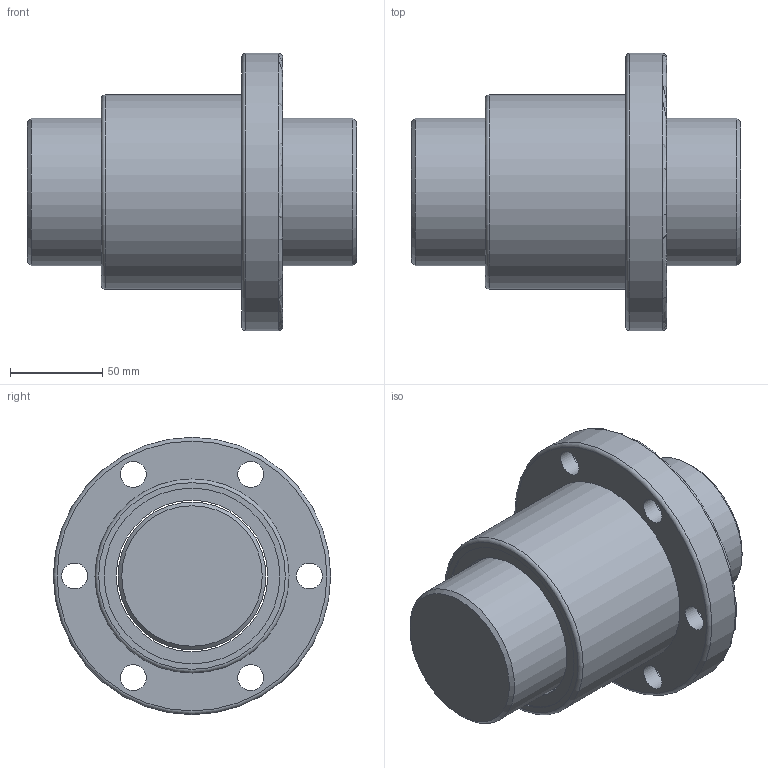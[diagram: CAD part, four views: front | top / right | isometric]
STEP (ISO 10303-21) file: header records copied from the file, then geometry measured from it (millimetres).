
FILE_DESCRIPTION(/* description */ (''),/* implementation_level */ '2;1');
FILE_NAME(/* name */ 'SFI8010',/* time_stamp */ '2007-10-26T11:46:11+08:00',/* author */ (''),/* organization */ (''),/* preprocessor_version */ 'ST-DEVELOPER v9',/* originating_system */ 'EDS PLM SOLUTIONS - UNIGRAPHICS NX 1.0',/* authorisation */ '');
FILE_SCHEMA (('CONFIG_CONTROL_DESIGN'));
Length unit declared in the file: millimetre
Products named in the file (1): FANNDA0400fg
Bounding box: 178 x 150 x 150 mm (x, y, z)
Volume: 1385536.6 mm3; surface area: 159650.9 mm2
Topology: 4 solids, 4 shells, 44 faces, 100 edges, 67 vertices
Faces by surface type: cylinder 22, plane 17, torus 3, cone 2
Full cylindrical faces by diameter (mm): 14 x6, 20 x6, 80 x1, 82 x3, 95 x4, 105 x1, 150 x1
Entity records: 1148 total; most frequent: DIRECTION 198, CARTESIAN_POINT 189, ORIENTED_EDGE 120, AXIS2_PLACEMENT_3D 99, EDGE_LOOP 92, FACE_BOUND 73, EDGE_CURVE 60, VERTEX_POINT 54
